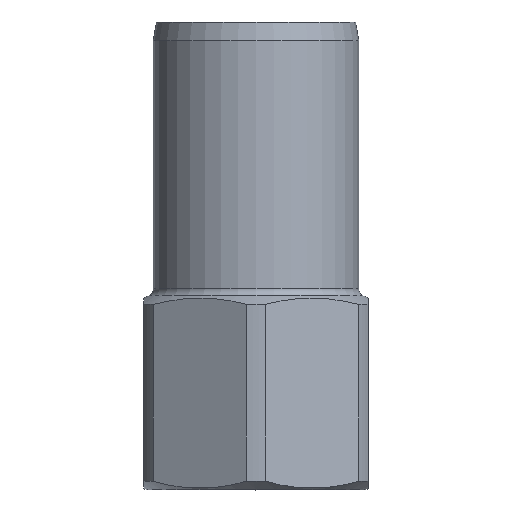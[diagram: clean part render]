
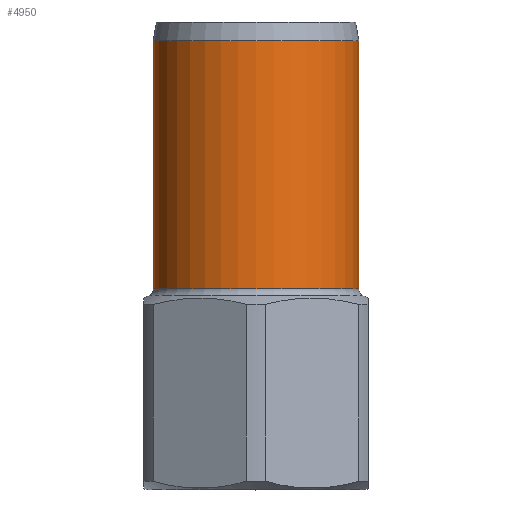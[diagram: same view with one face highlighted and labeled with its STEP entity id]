
A CAD part, top view. The second image highlights one B-rep face of the part: STEP entity #4950.
In plain terms, the highlighted cylindrical face has radius 11 mm (diameter 22 mm), a partial arc.
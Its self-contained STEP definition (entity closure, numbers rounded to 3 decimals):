
#4540=CARTESIAN_POINT('',(-2.044,-122.428,0.));
#4550=DIRECTION('',(0.,-1.,0.));
#4560=DIRECTION('',(-1.,0.,0.));
#4570=AXIS2_PLACEMENT_3D('',#4540,#4550,#4560);
#4580=CYLINDRICAL_SURFACE('',#4570,11.);
#4590=CARTESIAN_POINT('',(-13.044,-122.428,0.));
#4600=DIRECTION('',(0.,-1.,0.));
#4610=VECTOR('',#4600,1.);
#4620=LINE('',#4590,#4610);
#4630=CARTESIAN_POINT('',(-13.044,-97.172,0.));
#4640=VERTEX_POINT('',#4630);
#4650=CARTESIAN_POINT('',(-13.044,-123.685,0.));
#4660=VERTEX_POINT('',#4650);
#4670=EDGE_CURVE('',#4640,#4660,#4620,.T.);
#4680=ORIENTED_EDGE('',*,*,#4670,.T.);
#4690=CARTESIAN_POINT('',(-2.044,-97.172,0.));
#4700=DIRECTION('',(0.,1.,0.));
#4710=DIRECTION('',(1.,0.,0.));
#4720=AXIS2_PLACEMENT_3D('',#4690,#4700,#4710);
#4730=CIRCLE('',#4720,11.);
#4740=CARTESIAN_POINT('',(8.956,-97.172,
0.));
#4750=VERTEX_POINT('',#4740);
#4760=EDGE_CURVE('',#4640,#4750,#4730,.T.);
#4770=ORIENTED_EDGE('',*,*,#4760,.F.);
#4780=CARTESIAN_POINT('',(8.956,-122.428,
0.));
#4790=DIRECTION('',(0.,-1.,0.));
#4800=VECTOR('',#4790,1.);
#4810=LINE('',#4780,#4800);
#4820=CARTESIAN_POINT('',(8.956,-123.685,0.));
#4830=VERTEX_POINT('',#4820);
#4840=EDGE_CURVE('',#4750,#4830,#4810,.T.);
#4850=ORIENTED_EDGE('',*,*,#4840,.F.);
#4860=CARTESIAN_POINT('',(-2.044,-123.685,0.));
#4870=DIRECTION('',(0.,1.,0.));
#4880=DIRECTION('',(1.,0.,0.));
#4890=AXIS2_PLACEMENT_3D('',#4860,#4870,#4880);
#4900=CIRCLE('',#4890,11.);
#4910=EDGE_CURVE('',#4660,#4830,#4900,.T.);
#4920=ORIENTED_EDGE('',*,*,#4910,.T.);
#4930=EDGE_LOOP('',(#4920,#4850,#4770,#4680));
#4940=FACE_OUTER_BOUND('',#4930,.T.);
#4950=ADVANCED_FACE('',(#4940),#4580,.T.);
